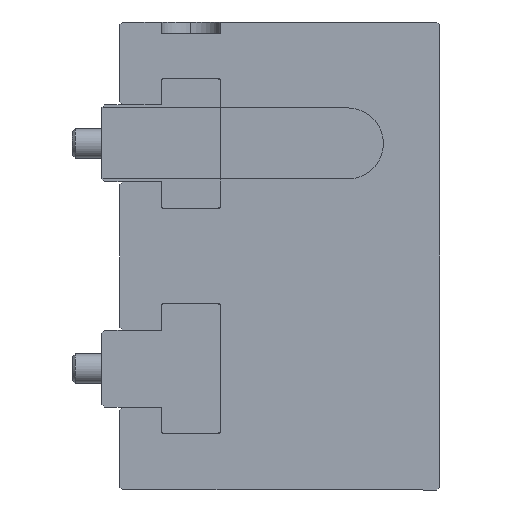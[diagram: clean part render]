
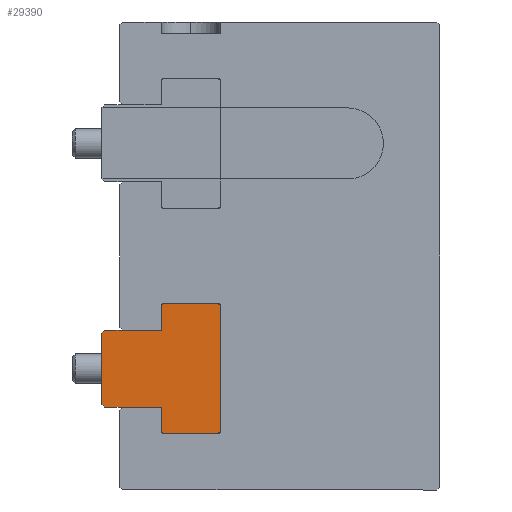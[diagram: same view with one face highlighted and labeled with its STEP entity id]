
A CAD part, left-side view. The second image highlights one B-rep face of the part: STEP entity #29390.
In plain terms, the highlighted planar face has unit normal (-1, 0, 0) as drawn and (1, 0, 0) by its records, which use the part's own axes.
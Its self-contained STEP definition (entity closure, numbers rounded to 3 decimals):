
#696 = VERTEX_POINT ( 'NONE', #41018 ) ;
#1526 = LINE ( 'NONE', #33944, #37677 ) ;
#1900 = CARTESIAN_POINT ( 'NONE',  ( 0., 20., -2.75 ) ) ;
#2055 = DIRECTION ( 'NONE',  ( 0., 0., 1. ) ) ;
#2326 = CARTESIAN_POINT ( 'NONE',  ( 0., 19.5, 6.5 ) ) ;
#2336 = ORIENTED_EDGE ( 'NONE', *, *, #27269, .F. ) ;
#2343 = VECTOR ( 'NONE', #38049, 1000. ) ;
#2349 = CARTESIAN_POINT ( 'NONE',  ( 0., 0., 10.5 ) ) ;
#2354 = LINE ( 'NONE', #41916, #20399 ) ;
#4064 = EDGE_LOOP ( 'NONE', ( #41812, #42479, #17100, #16296, #28596, #4298, #38447, #2336, #32685, #7000, #45606, #4723, #12954, #7503 ) ) ;
#4298 = ORIENTED_EDGE ( 'NONE', *, *, #12803, .T. ) ;
#4723 = ORIENTED_EDGE ( 'NONE', *, *, #32677, .F. ) ;
#5623 = CARTESIAN_POINT ( 'NONE',  ( 0., 9.5, 11. ) ) ;
#5748 = VECTOR ( 'NONE', #43474, 1000. ) ;
#5911 = LINE ( 'NONE', #26317, #32479 ) ;
#6290 = LINE ( 'NONE', #11824, #25497 ) ;
#7000 = ORIENTED_EDGE ( 'NONE', *, *, #30736, .F. ) ;
#7091 = CARTESIAN_POINT ( 'NONE',  ( 0., 23.25, 6.5 ) ) ;
#7503 = ORIENTED_EDGE ( 'NONE', *, *, #39610, .F. ) ;
#7519 = CARTESIAN_POINT ( 'NONE',  ( 0., 10., -2.75 ) ) ;
#7890 = VERTEX_POINT ( 'NONE', #38139 ) ;
#7950 = CARTESIAN_POINT ( 'NONE',  ( 0., 10., 10.5 ) ) ;
#9224 = LINE ( 'NONE', #45953, #38044 ) ;
#9507 = VERTEX_POINT ( 'NONE', #31108 ) ;
#10222 = CARTESIAN_POINT ( 'NONE',  ( 0., 20., 6. ) ) ;
#11824 = CARTESIAN_POINT ( 'NONE',  ( 0., 23.25, -11. ) ) ;
#11940 = LINE ( 'NONE', #34393, #2343 ) ;
#12065 = EDGE_CURVE ( 'NONE', #22224, #7890, #12469, .T. ) ;
#12469 = LINE ( 'NONE', #7519, #29422 ) ;
#12803 = EDGE_CURVE ( 'NONE', #45973, #16368, #18092, .T. ) ;
#12954 = ORIENTED_EDGE ( 'NONE', *, *, #39153, .T. ) ;
#13281 = VERTEX_POINT ( 'NONE', #7950 ) ;
#13786 = EDGE_CURVE ( 'NONE', #25449, #37304, #32746, .T. ) ;
#14768 = DIRECTION ( 'NONE',  ( 0., 0., 1. ) ) ;
#15299 = VECTOR ( 'NONE', #34545, 1000. ) ;
#15410 = FACE_OUTER_BOUND ( 'NONE', #4064, .T. ) ;
#16296 = ORIENTED_EDGE ( 'NONE', *, *, #13786, .T. ) ;
#16368 = VERTEX_POINT ( 'NONE', #19970 ) ;
#17100 = ORIENTED_EDGE ( 'NONE', *, *, #40324, .F. ) ;
#17249 = CARTESIAN_POINT ( 'NONE',  ( 0., 20., -6. ) ) ;
#17737 = CARTESIAN_POINT ( 'NONE',  ( 0., 0.5, 11. ) ) ;
#18092 = LINE ( 'NONE', #7091, #45797 ) ;
#18169 = CARTESIAN_POINT ( 'NONE',  ( 0., 0.5, -11. ) ) ;
#19457 = VECTOR ( 'NONE', #38804, 1000. ) ;
#19970 = CARTESIAN_POINT ( 'NONE',  ( 0., 10., 6.5 ) ) ;
#20239 = DIRECTION ( 'NONE',  ( 0., 0.707, -0.707 ) ) ;
#20313 = VERTEX_POINT ( 'NONE', #5623 ) ;
#20396 = DIRECTION ( 'NONE',  ( 0., -0.707, -0.707 ) ) ;
#20399 = VECTOR ( 'NONE', #20396, 1000. ) ;
#20868 = VERTEX_POINT ( 'NONE', #24145 ) ;
#20953 = DIRECTION ( 'NONE',  ( 0., 0.707, 0.707 ) ) ;
#21075 = LINE ( 'NONE', #46254, #39186 ) ;
#21281 = DIRECTION ( 'NONE',  ( 1., 0., 0. ) ) ;
#21609 = EDGE_CURVE ( 'NONE', #20313, #33305, #22806, .T. ) ;
#22224 = VERTEX_POINT ( 'NONE', #30321 ) ;
#22587 = CARTESIAN_POINT ( 'NONE',  ( 0., 19.5, -6.5 ) ) ;
#22806 = LINE ( 'NONE', #28494, #40924 ) ;
#23112 = VECTOR ( 'NONE', #2055, 1000. ) ;
#24145 = CARTESIAN_POINT ( 'NONE',  ( 0., 0.5, -11. ) ) ;
#24255 = EDGE_CURVE ( 'NONE', #45973, #37304, #1526, .T. ) ;
#24262 = DIRECTION ( 'NONE',  ( 0., 0., 1. ) ) ;
#24796 = AXIS2_PLACEMENT_3D ( 'NONE', #42778, #21281, #46588 ) ;
#25449 = VERTEX_POINT ( 'NONE', #17249 ) ;
#25497 = VECTOR ( 'NONE', #40596, 1000. ) ;
#26317 = CARTESIAN_POINT ( 'NONE',  ( 0., 9.5, 11. ) ) ;
#26353 = EDGE_CURVE ( 'NONE', #7890, #46587, #37588, .T. ) ;
#27269 = EDGE_CURVE ( 'NONE', #20313, #13281, #5911, .T. ) ;
#28494 = CARTESIAN_POINT ( 'NONE',  ( 0., 23.25, 11. ) ) ;
#28596 = ORIENTED_EDGE ( 'NONE', *, *, #24255, .F. ) ;
#29273 = EDGE_CURVE ( 'NONE', #9507, #32996, #9224, .T. ) ;
#29390 = ADVANCED_FACE ( 'NONE', ( #15410 ), #42945, .T. ) ;
#29422 = VECTOR ( 'NONE', #14768, 1000. ) ;
#30316 = DIRECTION ( 'NONE',  ( 0., 0.707, -0.707 ) ) ;
#30321 = CARTESIAN_POINT ( 'NONE',  ( 0., 10., -10.5 ) ) ;
#30736 = EDGE_CURVE ( 'NONE', #32996, #33305, #21075, .T. ) ;
#30911 = CARTESIAN_POINT ( 'NONE',  ( 0., 10., -10.5 ) ) ;
#31108 = CARTESIAN_POINT ( 'NONE',  ( 0., 0., -10.5 ) ) ;
#31669 = CARTESIAN_POINT ( 'NONE',  ( 0., 23.25, -6.5 ) ) ;
#32348 = DIRECTION ( 'NONE',  ( 0., -1., 0. ) ) ;
#32479 = VECTOR ( 'NONE', #20239, 1000. ) ;
#32677 = EDGE_CURVE ( 'NONE', #20868, #9507, #33402, .T. ) ;
#32685 = ORIENTED_EDGE ( 'NONE', *, *, #21609, .T. ) ;
#32746 = LINE ( 'NONE', #1900, #23112 ) ;
#32916 = EDGE_CURVE ( 'NONE', #16368, #13281, #11940, .T. ) ;
#32996 = VERTEX_POINT ( 'NONE', #2349 ) ;
#33305 = VERTEX_POINT ( 'NONE', #17737 ) ;
#33402 = LINE ( 'NONE', #18169, #5748 ) ;
#33944 = CARTESIAN_POINT ( 'NONE',  ( 0., 19.5, 6.5 ) ) ;
#34393 = CARTESIAN_POINT ( 'NONE',  ( 0., 10., -2.75 ) ) ;
#34545 = DIRECTION ( 'NONE',  ( 0., -0.707, -0.707 ) ) ;
#37304 = VERTEX_POINT ( 'NONE', #10222 ) ;
#37588 = LINE ( 'NONE', #31669, #19457 ) ;
#37677 = VECTOR ( 'NONE', #30316, 1000. ) ;
#38044 = VECTOR ( 'NONE', #24262, 1000. ) ;
#38049 = DIRECTION ( 'NONE',  ( 0., 0., 1. ) ) ;
#38139 = CARTESIAN_POINT ( 'NONE',  ( 0., 10., -6.5 ) ) ;
#38447 = ORIENTED_EDGE ( 'NONE', *, *, #32916, .T. ) ;
#38804 = DIRECTION ( 'NONE',  ( 0., 1., 0. ) ) ;
#39153 = EDGE_CURVE ( 'NONE', #20868, #696, #6290, .T. ) ;
#39186 = VECTOR ( 'NONE', #20953, 1000. ) ;
#39416 = DIRECTION ( 'NONE',  ( 0., -1., 0. ) ) ;
#39610 = EDGE_CURVE ( 'NONE', #22224, #696, #43019, .T. ) ;
#40324 = EDGE_CURVE ( 'NONE', #25449, #46587, #2354, .T. ) ;
#40596 = DIRECTION ( 'NONE',  ( 0., 1., 0. ) ) ;
#40924 = VECTOR ( 'NONE', #39416, 1000. ) ;
#41018 = CARTESIAN_POINT ( 'NONE',  ( 0., 9.5, -11. ) ) ;
#41812 = ORIENTED_EDGE ( 'NONE', *, *, #12065, .T. ) ;
#41916 = CARTESIAN_POINT ( 'NONE',  ( 0., 20., -6. ) ) ;
#42479 = ORIENTED_EDGE ( 'NONE', *, *, #26353, .T. ) ;
#42778 = CARTESIAN_POINT ( 'NONE',  ( 0., 23.25, -2.75 ) ) ;
#42945 = PLANE ( 'NONE',  #24796 ) ;
#43019 = LINE ( 'NONE', #30911, #15299 ) ;
#43474 = DIRECTION ( 'NONE',  ( 0., -0.707, 0.707 ) ) ;
#45606 = ORIENTED_EDGE ( 'NONE', *, *, #29273, .F. ) ;
#45797 = VECTOR ( 'NONE', #32348, 1000. ) ;
#45953 = CARTESIAN_POINT ( 'NONE',  ( 0., 0., -10.5 ) ) ;
#45973 = VERTEX_POINT ( 'NONE', #2326 ) ;
#46254 = CARTESIAN_POINT ( 'NONE',  ( 0., 0., 10.5 ) ) ;
#46587 = VERTEX_POINT ( 'NONE', #22587 ) ;
#46588 = DIRECTION ( 'NONE',  ( 0., 0., -1. ) ) ;
